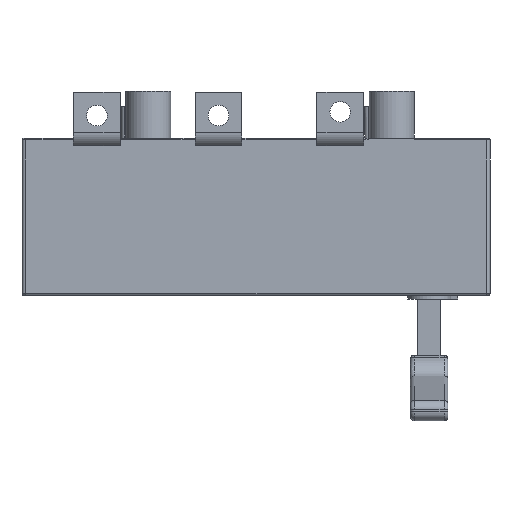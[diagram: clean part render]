
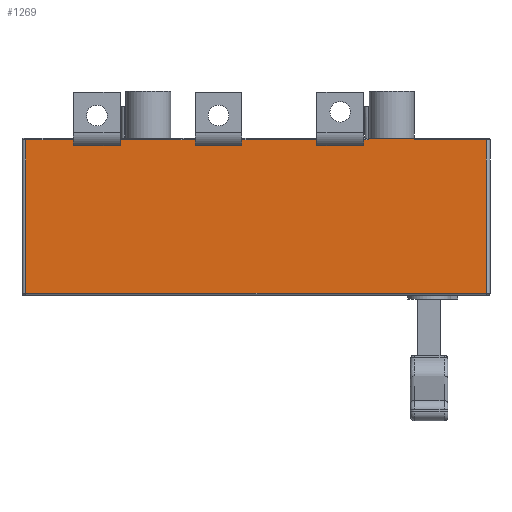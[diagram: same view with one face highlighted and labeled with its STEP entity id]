
A CAD part, front view. The second image highlights one B-rep face of the part: STEP entity #1269.
In plain terms, the highlighted planar face has unit normal (0, -1, 0).
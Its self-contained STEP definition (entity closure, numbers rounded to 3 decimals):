
#167=PLANE('',#4778);
#342=FACE_OUTER_BOUND('',#1840,.T.);
#349=LINE('',#6136,#691);
#360=LINE('',#6166,#702);
#362=LINE('',#6172,#704);
#376=LINE('',#6218,#718);
#387=LINE('',#6248,#729);
#389=LINE('',#6252,#731);
#403=LINE('',#6300,#745);
#414=LINE('',#6328,#756);
#416=LINE('',#6336,#758);
#571=LINE('',#6966,#913);
#580=LINE('',#6996,#922);
#586=LINE('',#7065,#928);
#591=LINE('',#7082,#933);
#592=LINE('',#7084,#934);
#614=LINE('',#7208,#956);
#621=LINE('',#7257,#963);
#653=LINE('',#7357,#995);
#659=LINE('',#7369,#1001);
#669=LINE('',#7389,#1011);
#680=LINE('',#7412,#1022);
#683=LINE('',#7417,#1025);
#684=LINE('',#7418,#1026);
#691=VECTOR('',#4809,1.);
#702=VECTOR('',#4838,1.);
#704=VECTOR('',#4844,1.);
#718=VECTOR('',#4886,1.);
#729=VECTOR('',#4915,1.);
#731=VECTOR('',#4919,1.);
#745=VECTOR('',#4963,1.);
#756=VECTOR('',#4990,1.);
#758=VECTOR('',#4998,1.);
#913=VECTOR('',#5657,1.);
#922=VECTOR('',#5692,1.);
#928=VECTOR('',#5732,1.);
#933=VECTOR('',#5755,1.);
#934=VECTOR('',#5758,1.);
#956=VECTOR('',#5896,1.);
#963=VECTOR('',#5917,1.);
#995=VECTOR('',#6017,1.);
#1001=VECTOR('',#6029,1.);
#1011=VECTOR('',#6051,1.);
#1022=VECTOR('',#6086,1.);
#1025=VECTOR('',#6093,1.);
#1026=VECTOR('',#6094,1.);
#1269=ADVANCED_FACE('',(#342),#167,.T.);
#1840=EDGE_LOOP('',(#2966,#2967,#2968,#2969,#2970,#2971,#2972,#2973,#2974,
#2975,#2976,#2977,#2978,#2979,#2980,#2981,#2982,#2983,#2984,#2985,#2986,
#2987));
#2966=ORIENTED_EDGE('',*,*,#3457,.F.);
#2967=ORIENTED_EDGE('',*,*,#3475,.T.);
#2968=ORIENTED_EDGE('',*,*,#4038,.T.);
#2969=ORIENTED_EDGE('',*,*,#3513,.F.);
#2970=ORIENTED_EDGE('',*,*,#3496,.F.);
#2971=ORIENTED_EDGE('',*,*,#3511,.F.);
#2972=ORIENTED_EDGE('',*,*,#3860,.T.);
#2973=ORIENTED_EDGE('',*,*,#3549,.F.);
#2974=ORIENTED_EDGE('',*,*,#3535,.F.);
#2975=ORIENTED_EDGE('',*,*,#3553,.F.);
#2976=ORIENTED_EDGE('',*,*,#4035,.T.);
#2977=ORIENTED_EDGE('',*,*,#3889,.F.);
#2978=ORIENTED_EDGE('',*,*,#3879,.T.);
#2979=ORIENTED_EDGE('',*,*,#3888,.T.);
#2980=ORIENTED_EDGE('',*,*,#3843,.T.);
#2981=ORIENTED_EDGE('',*,*,#4013,.T.);
#2982=ORIENTED_EDGE('',*,*,#4006,.F.);
#2983=ORIENTED_EDGE('',*,*,#3942,.F.);
#2984=ORIENTED_EDGE('',*,*,#4024,.T.);
#2985=ORIENTED_EDGE('',*,*,#3955,.T.);
#2986=ORIENTED_EDGE('',*,*,#4039,.T.);
#2987=ORIENTED_EDGE('',*,*,#3472,.T.);
#3058=VERTEX_POINT('',#6134);
#3060=VERTEX_POINT('',#6137);
#3069=VERTEX_POINT('',#6164);
#3071=VERTEX_POINT('',#6171);
#3089=VERTEX_POINT('',#6217);
#3090=VERTEX_POINT('',#6219);
#3099=VERTEX_POINT('',#6247);
#3101=VERTEX_POINT('',#6253);
#3119=VERTEX_POINT('',#6299);
#3120=VERTEX_POINT('',#6301);
#3129=VERTEX_POINT('',#6329);
#3131=VERTEX_POINT('',#6335);
#3324=VERTEX_POINT('',#6944);
#3325=VERTEX_POINT('',#6964);
#3333=VERTEX_POINT('',#6989);
#3343=VERTEX_POINT('',#7020);
#3347=VERTEX_POINT('',#7062);
#3395=VERTEX_POINT('',#7207);
#3396=VERTEX_POINT('',#7209);
#3403=VERTEX_POINT('',#7239);
#3406=VERTEX_POINT('',#7256);
#3441=VERTEX_POINT('',#7358);
#3457=EDGE_CURVE('',#3058,#3060,#349,.T.);
#3472=EDGE_CURVE('',#3069,#3060,#360,.T.);
#3475=EDGE_CURVE('',#3058,#3071,#362,.T.);
#3496=EDGE_CURVE('',#3089,#3090,#376,.T.);
#3511=EDGE_CURVE('',#3099,#3089,#387,.T.);
#3513=EDGE_CURVE('',#3090,#3101,#389,.T.);
#3535=EDGE_CURVE('',#3119,#3120,#403,.T.);
#3549=EDGE_CURVE('',#3120,#3129,#414,.T.);
#3553=EDGE_CURVE('',#3131,#3119,#416,.T.);
#3843=EDGE_CURVE('',#3324,#3325,#571,.T.);
#3860=EDGE_CURVE('',#3099,#3129,#580,.T.);
#3879=EDGE_CURVE('',#3347,#3343,#586,.T.);
#3888=EDGE_CURVE('',#3343,#3324,#591,.T.);
#3889=EDGE_CURVE('',#3347,#3333,#592,.T.);
#3942=EDGE_CURVE('',#3395,#3396,#614,.T.);
#3955=EDGE_CURVE('',#3403,#3406,#621,.T.);
#4006=EDGE_CURVE('',#3396,#3441,#653,.T.);
#4013=EDGE_CURVE('',#3325,#3441,#659,.T.);
#4024=EDGE_CURVE('',#3395,#3403,#669,.T.);
#4035=EDGE_CURVE('',#3131,#3333,#680,.T.);
#4038=EDGE_CURVE('',#3071,#3101,#683,.T.);
#4039=EDGE_CURVE('',#3406,#3069,#684,.T.);
#4778=AXIS2_PLACEMENT_3D('',#7419,#6095,#6096);
#4809=DIRECTION('',(1.,0.,0.));
#4838=DIRECTION('',(0.,0.,-1.));
#4844=DIRECTION('',(0.,0.,1.));
#4886=DIRECTION('',(1.,0.,0.));
#4915=DIRECTION('',(0.,0.,-1.));
#4919=DIRECTION('',(0.,0.,1.));
#4963=DIRECTION('',(1.,0.,0.));
#4990=DIRECTION('',(0.,0.,1.));
#4998=DIRECTION('',(0.,0.,-1.));
#5657=DIRECTION('',(-1.,0.,0.));
#5692=DIRECTION('',(-1.,0.,0.));
#5732=DIRECTION('',(1.,0.,0.));
#5755=DIRECTION('',(0.,0.,1.));
#5758=DIRECTION('',(0.,0.,1.));
#5896=DIRECTION('',(0.,0.,-1.));
#5917=DIRECTION('',(0.,0.,-1.));
#6017=DIRECTION('',(1.,0.,0.));
#6029=DIRECTION('',(0.,0.,1.));
#6051=DIRECTION('',(-1.,0.,0.));
#6086=DIRECTION('',(-1.,0.,0.));
#6093=DIRECTION('',(-1.,0.,0.));
#6094=DIRECTION('',(-1.,0.,0.));
#6095=DIRECTION('',(0.,-1.,0.));
#6096=DIRECTION('',(1.,0.,0.));
#6134=CARTESIAN_POINT('',(-40.,-52.5,-4.118));
#6136=CARTESIAN_POINT('',(-15.,-52.5,-4.118));
#6137=CARTESIAN_POINT('',(-15.,-52.5,-4.118));
#6164=CARTESIAN_POINT('',(-15.,-52.5,-1.));
#6166=CARTESIAN_POINT('',(-15.,-52.5,4.));
#6171=CARTESIAN_POINT('',(-40.,-52.5,-1.));
#6172=CARTESIAN_POINT('',(-40.,-52.5,4.));
#6217=CARTESIAN_POINT('',(-105.,-52.5,-4.118));
#6218=CARTESIAN_POINT('',(-80.,-52.5,-4.118));
#6219=CARTESIAN_POINT('',(-80.,-52.5,-4.118));
#6247=CARTESIAN_POINT('',(-105.,-52.5,-1.));
#6248=CARTESIAN_POINT('',(-105.,-52.5,4.));
#6252=CARTESIAN_POINT('',(-80.,-52.5,4.));
#6253=CARTESIAN_POINT('',(-80.,-52.5,-1.));
#6299=CARTESIAN_POINT('',(-170.,-52.5,-4.118));
#6300=CARTESIAN_POINT('',(-145.,-52.5,-4.118));
#6301=CARTESIAN_POINT('',(-145.,-52.5,-4.118));
#6328=CARTESIAN_POINT('',(-145.,-52.5,4.));
#6329=CARTESIAN_POINT('',(-145.,-52.5,-1.));
#6335=CARTESIAN_POINT('',(-170.,-52.5,-1.));
#6336=CARTESIAN_POINT('',(-170.,-52.5,4.));
#6944=CARTESIAN_POINT('',(50.5,-52.5,-1.));
#6964=CARTESIAN_POINT('',(12.,-52.5,-1.));
#6966=CARTESIAN_POINT('',(12.,-52.5,-1.));
#6989=CARTESIAN_POINT('',(-195.5,-52.5,-1.));
#6996=CARTESIAN_POINT('',(-195.5,-52.5,-1.));
#7020=CARTESIAN_POINT('',(50.5,-52.5,-83.));
#7062=CARTESIAN_POINT('',(-195.5,-52.5,-83.));
#7065=CARTESIAN_POINT('',(-12.,-52.5,-83.));
#7082=CARTESIAN_POINT('',(50.5,-52.5,-84.));
#7084=CARTESIAN_POINT('',(-195.5,-52.5,-84.));
#7207=CARTESIAN_POINT('',(-12.,-52.5,17.));
#7208=CARTESIAN_POINT('',(-12.,-52.5,25.));
#7209=CARTESIAN_POINT('',(-12.,-52.5,0.));
#7239=CARTESIAN_POINT('',(-12.5,-52.5,17.));
#7256=CARTESIAN_POINT('',(-12.5,-52.5,-1.));
#7257=CARTESIAN_POINT('',(-12.5,-52.5,4.));
#7357=CARTESIAN_POINT('',(50.5,-52.5,0.));
#7358=CARTESIAN_POINT('',(12.,-52.5,0.));
#7369=CARTESIAN_POINT('',(12.,-52.5,4.));
#7389=CARTESIAN_POINT('',(7.5,-52.5,17.));
#7412=CARTESIAN_POINT('',(-195.5,-52.5,-1.));
#7417=CARTESIAN_POINT('',(-195.5,-52.5,-1.));
#7418=CARTESIAN_POINT('',(-195.5,-52.5,-1.));
#7419=CARTESIAN_POINT('',(-12.,-52.5,4.));
